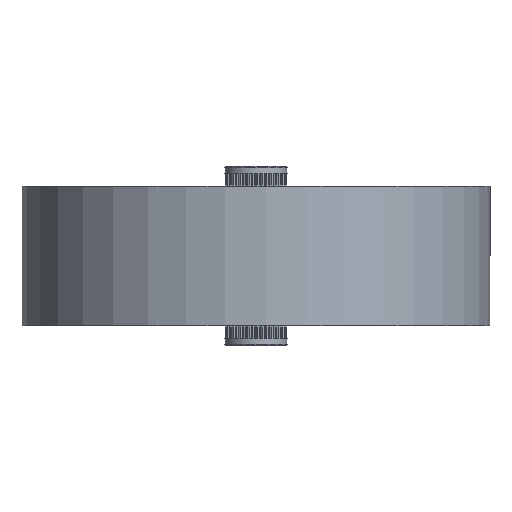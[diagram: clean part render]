
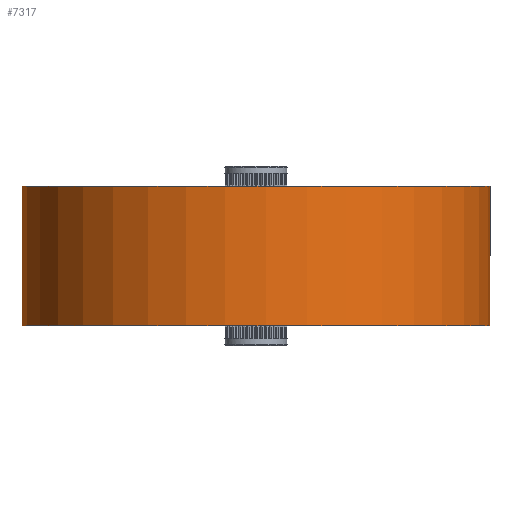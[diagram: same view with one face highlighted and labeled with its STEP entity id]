
A CAD part, front view. The second image highlights one B-rep face of the part: STEP entity #7317.
In plain terms, the highlighted cylindrical face has radius 30 mm (diameter 60 mm), a full revolution.
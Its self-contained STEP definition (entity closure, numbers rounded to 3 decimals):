
#4558=CARTESIAN_POINT('',(18.268,23.797,13.856));
#4559=VERTEX_POINT('',#4558);
#4560=CARTESIAN_POINT('',(0.0,0.0,13.856));
#4561=DIRECTION('',(0.0,0.0,1.0));
#4562=DIRECTION('',(-0.609,-0.793,0.0));
#4563=AXIS2_PLACEMENT_3D('',#4560,#4561,#4562);
#4564=CIRCLE('',#4563,30.0);
#4565=EDGE_CURVE('',#4559,#4559,#4564,.T.);
#6100=CARTESIAN_POINT('',(18.268,23.797,-4.064));
#6101=VERTEX_POINT('',#6100);
#6102=CARTESIAN_POINT('',(0.0,0.0,-4.064));
#6103=DIRECTION('',(0.0,0.0,-1.0));
#6104=DIRECTION('',(-0.609,-0.793,0.0));
#6105=AXIS2_PLACEMENT_3D('',#6102,#6103,#6104);
#6106=CIRCLE('',#6105,30.0);
#6107=EDGE_CURVE('',#6101,#6101,#6106,.T.);
#7306=CARTESIAN_POINT('',(0.0,0.0,-4.064));
#7307=DIRECTION('',(0.0,0.0,1.0));
#7308=DIRECTION('',(-0.609,-0.793,0.0));
#7309=AXIS2_PLACEMENT_3D('',#7306,#7307,#7308);
#7310=CYLINDRICAL_SURFACE('',#7309,30.0);
#7311=ORIENTED_EDGE('',*,*,#4565,.F.);
#7312=EDGE_LOOP('',(#7311));
#7313=FACE_OUTER_BOUND('',#7312,.T.);
#7314=ORIENTED_EDGE('',*,*,#6107,.F.);
#7315=EDGE_LOOP('',(#7314));
#7316=FACE_BOUND('',#7315,.T.);
#7317=ADVANCED_FACE('',(#7313,#7316),#7310,.T.);
